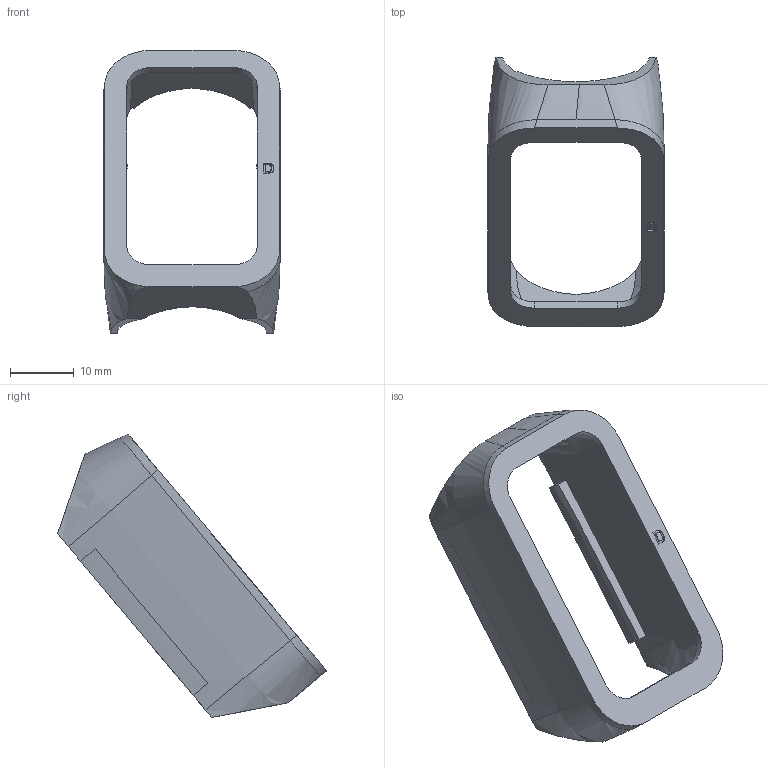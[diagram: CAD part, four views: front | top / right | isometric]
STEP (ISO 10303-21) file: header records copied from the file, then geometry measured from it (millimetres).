
FILE_DESCRIPTION(('Open CASCADE Model'),'2;1');
FILE_NAME('Open CASCADE Shape Model','1970-01-01T00:00:00',('Author'),( 'Open CASCADE'),'Open CASCADE STEP processor 7.8','Open CASCADE 7.8' ,'Unknown');
FILE_SCHEMA(('AUTOMOTIVE_DESIGN { 1 0 10303 214 1 1 1 1 }'));
Length unit declared in the file: millimetre
Products named in the file (2): Open CASCADE STEP translator 7.8 4; cover-retention-d
Assembly tree (1 placements, depth 2):
  Open CASCADE STEP translator 7.8 4
    cover-retention-d
Bounding box: 27.76 x 42.29 x 44.52 mm (x, y, z)
Volume: 3591.4 mm3; surface area: 5201 mm2
Topology: 1 solids, 1 shells, 83 faces, 235 edges, 156 vertices
Faces by surface type: bspline 45, plane 18, extrusion 16, cylinder 4
Entity records: 10777 total; most frequent: CARTESIAN_POINT 7246, B_SPLINE_CURVE_WITH_KNOTS 508, ORIENTED_EDGE 470, PCURVE 470, DEFINITIONAL_REPRESENTATION 470, DIRECTION 247, EDGE_CURVE 235, SURFACE_CURVE 235
